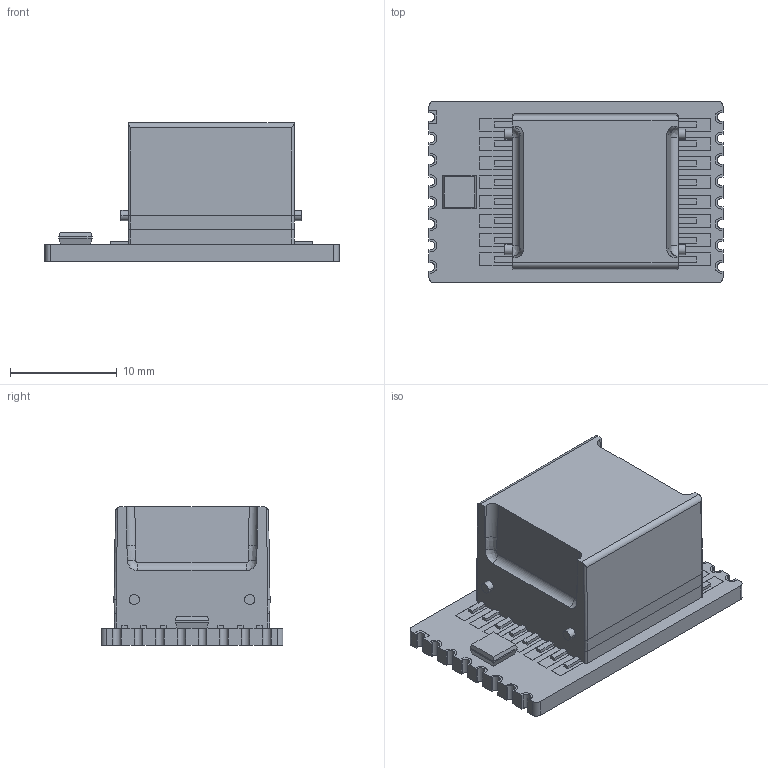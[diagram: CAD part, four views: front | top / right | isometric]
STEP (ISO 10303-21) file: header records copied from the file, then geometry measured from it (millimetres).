
FILE_DESCRIPTION((''),'2;1');
FILE_NAME('EN-100C_MODEL','2013-11-14T',('ulf'),(''),'PRO/ENGINEER BY PARAMETRIC TECHNOLOGY CORPORATION, 2013230','PRO/ENGINEER BY PARAMETRIC TECHNOLOGY CORPORATION, 2013230','');
FILE_SCHEMA(('AUTOMOTIVE_DESIGN { 1 0 10303 214 1 1 1 1 }'));
Length unit declared in the file: millimetre
Products named in the file (1): EN-100C_MODEL
Bounding box: 27.5 x 17 x 12.99 mm (x, y, z)
Volume: 3190 mm3; surface area: 1786.5 mm2
Topology: 1 solids, 1 shells, 398 faces, 1166 edges, 776 vertices
Faces by surface type: plane 312, cylinder 78, bspline 8
Entity records: 16796 total; most frequent: CARTESIAN_POINT 3160, ORIENTED_EDGE 2332, DIRECTION 2062, EDGE_CURVE 1166, VECTOR 986, LINE 986, VERTEX_POINT 776, AXIS2_PLACEMENT_3D 538
